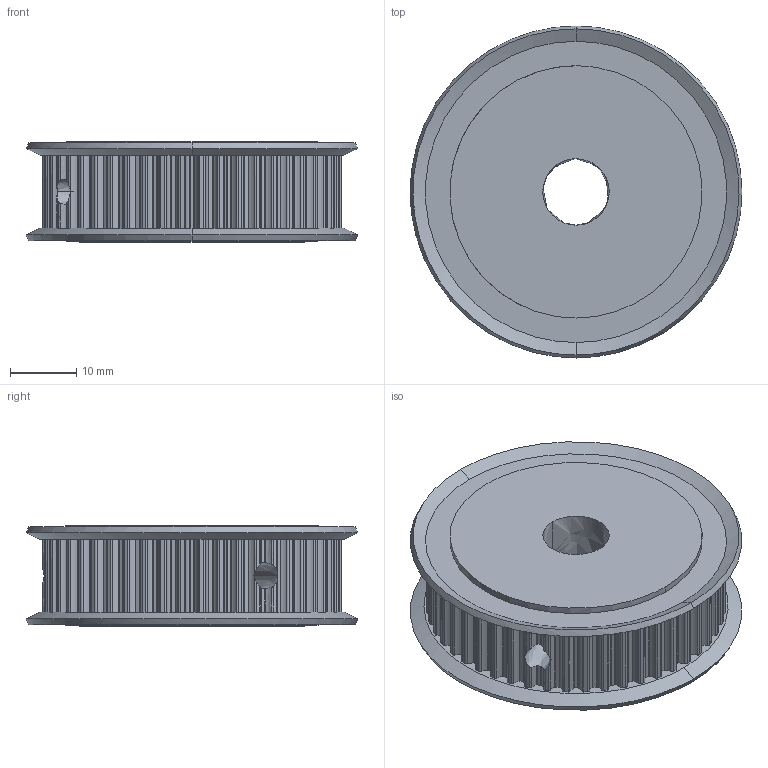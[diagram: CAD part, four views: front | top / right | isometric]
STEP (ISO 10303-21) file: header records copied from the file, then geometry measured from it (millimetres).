
FILE_DESCRIPTION(/* description */ (''),/* implementation_level */ '2;1');
FILE_NAME(/* name */ '8.x-drive#8.2#GPA48GT3090-A-P12',/* time_stamp */ '2014-12-01T20:17:55+01:00',/* author */ (''),/* organization */ (''),/* preprocessor_version */ 'ST-DEVELOPER v14',/* originating_system */ '',/* authorisation */ '');
FILE_SCHEMA (('AUTOMOTIVE_DESIGN'));
Length unit declared in the file: millimetre
Products named in the file (2): Document; pulley GPA48GT3090-A-P12
Assembly tree (1 placements, depth 2):
  Document
    pulley GPA48GT3090-A-P12
Bounding box: 50 x 50 x 15.1 mm (x, y, z)
Volume: 21437.1 mm3; surface area: 8227.3 mm2
Topology: 1 solids, 1 shells, 439 faces, 1291 edges, 858 vertices
Faces by surface type: bspline 430, plane 9
Entity records: 34508 total; most frequent: CARTESIAN_POINT 19635, ORIENTED_EDGE 2582, PCURVE 2582, DEFINITIONAL_REPRESENTATION 2582, B_SPLINE_CURVE_WITH_KNOTS 2265, SURFACE_CURVE 1291, EDGE_CURVE 1291, VERTEX_POINT 858
